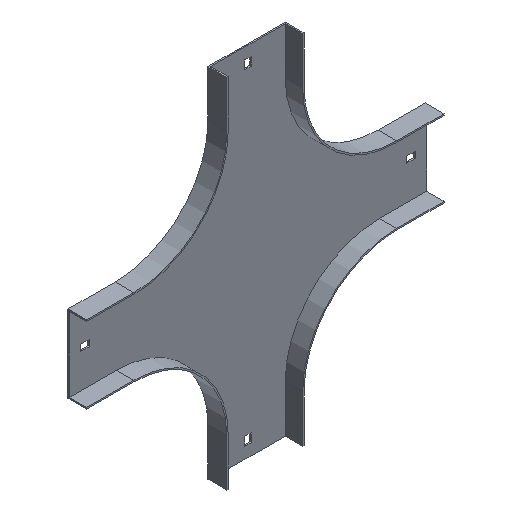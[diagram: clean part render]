
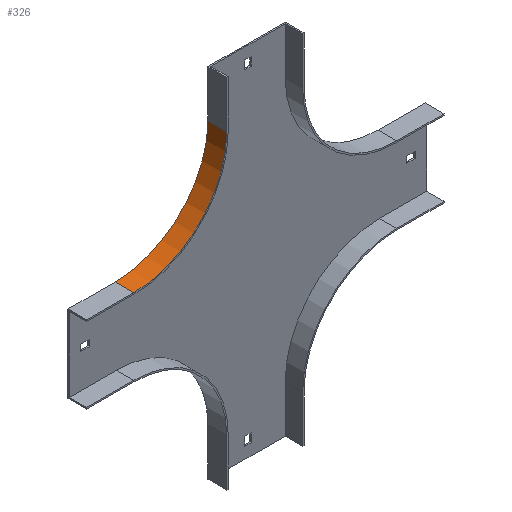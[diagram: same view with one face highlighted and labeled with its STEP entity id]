
A CAD part, isometric view. The second image highlights one B-rep face of the part: STEP entity #326.
In plain terms, the highlighted cylindrical face has radius 98.5 mm (diameter 197 mm), a partial arc.
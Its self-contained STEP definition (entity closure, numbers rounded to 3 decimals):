
#41 = CARTESIAN_POINT ( 'NONE',  ( -180.5, -20., 0. ) ) ;
#64 = DIRECTION ( 'NONE',  ( 0., 0., 1. ) ) ;
#110 = ORIENTED_EDGE ( 'NONE', *, *, #191, .F. ) ;
#130 = VECTOR ( 'NONE', #209, 1000. ) ;
#191 = EDGE_CURVE ( 'NONE', #1255, #511, #1465, .T. ) ;
#209 = DIRECTION ( 'NONE',  ( 0., 1., 0. ) ) ;
#245 = DIRECTION ( 'NONE',  ( 0., -1., 0. ) ) ;
#326 = ADVANCED_FACE ( 'NONE', ( #1608 ), #1486, .F. ) ;
#384 = CARTESIAN_POINT ( 'NONE',  ( -279., -20., -98.5 ) ) ;
#471 = CARTESIAN_POINT ( 'NONE',  ( -180.5, 0., 0. ) ) ;
#511 = VERTEX_POINT ( 'NONE', #1395 ) ;
#718 = AXIS2_PLACEMENT_3D ( 'NONE', #1107, #1469, #1241 ) ;
#738 = ORIENTED_EDGE ( 'NONE', *, *, #972, .T. ) ;
#742 = CIRCLE ( 'NONE', #991, 98.5 ) ;
#788 = LINE ( 'NONE', #41, #1591 ) ;
#867 = ORIENTED_EDGE ( 'NONE', *, *, #1143, .F. ) ;
#877 = CARTESIAN_POINT ( 'NONE',  ( -279., -20., 0. ) ) ;
#964 = AXIS2_PLACEMENT_3D ( 'NONE', #877, #245, #1644 ) ;
#972 = EDGE_CURVE ( 'NONE', #1610, #1400, #788, .T. ) ;
#991 = AXIS2_PLACEMENT_3D ( 'NONE', #1619, #1472, #64 ) ;
#1107 = CARTESIAN_POINT ( 'NONE',  ( -279., -20., 0. ) ) ;
#1143 = EDGE_CURVE ( 'NONE', #511, #1400, #742, .T. ) ;
#1241 = DIRECTION ( 'NONE',  ( 0., 0., 1. ) ) ;
#1255 = VERTEX_POINT ( 'NONE', #384 ) ;
#1296 = EDGE_CURVE ( 'NONE', #1255, #1610, #1390, .T. ) ;
#1299 = DIRECTION ( 'NONE',  ( 0., 1., 0. ) ) ;
#1311 = CARTESIAN_POINT ( 'NONE',  ( -180.5, -20., 0. ) ) ;
#1390 = CIRCLE ( 'NONE', #964, 98.5 ) ;
#1395 = CARTESIAN_POINT ( 'NONE',  ( -279., 0., -98.5 ) ) ;
#1400 = VERTEX_POINT ( 'NONE', #471 ) ;
#1465 = LINE ( 'NONE', #1493, #130 ) ;
#1469 = DIRECTION ( 'NONE',  ( 0., 1., 0. ) ) ;
#1472 = DIRECTION ( 'NONE',  ( 0., -1., 0. ) ) ;
#1486 = CYLINDRICAL_SURFACE ( 'NONE', #718, 98.5 ) ;
#1493 = CARTESIAN_POINT ( 'NONE',  ( -279., -20., -98.5 ) ) ;
#1540 = ORIENTED_EDGE ( 'NONE', *, *, #1296, .T. ) ;
#1560 = EDGE_LOOP ( 'NONE', ( #867, #110, #1540, #738 ) ) ;
#1591 = VECTOR ( 'NONE', #1299, 1000. ) ;
#1608 = FACE_OUTER_BOUND ( 'NONE', #1560, .T. ) ;
#1610 = VERTEX_POINT ( 'NONE', #1311 ) ;
#1619 = CARTESIAN_POINT ( 'NONE',  ( -279., 0., 0. ) ) ;
#1644 = DIRECTION ( 'NONE',  ( 0., 0., 1. ) ) ;
